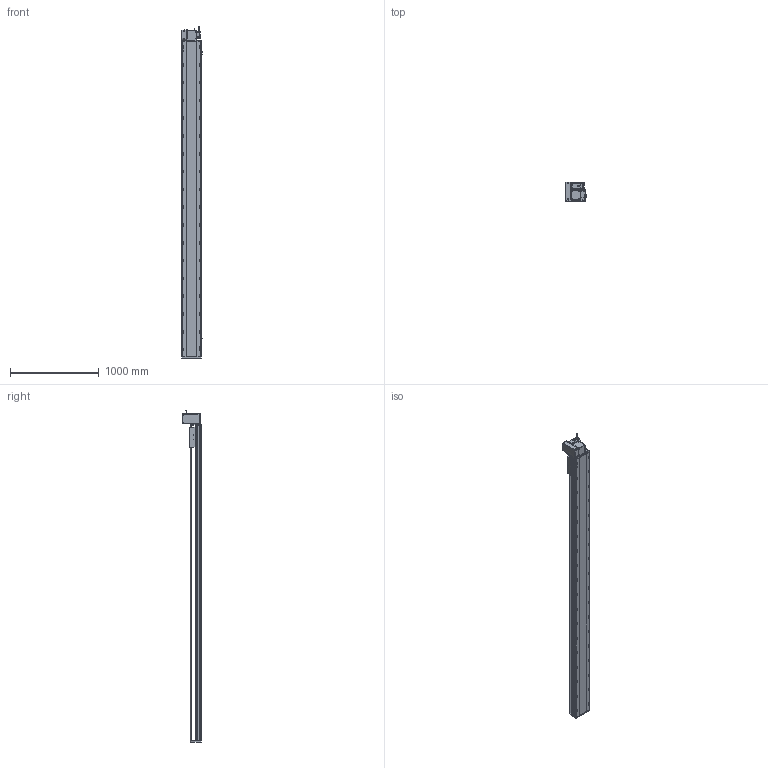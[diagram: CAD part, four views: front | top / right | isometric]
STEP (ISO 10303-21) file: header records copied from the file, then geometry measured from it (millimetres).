
FILE_DESCRIPTION (( 'STEP AP214' ), '1' );
FILE_NAME ('RTB22S-XX-3200-LW-M75-C4.STEP', '2025-12-12T07:06:50', ( '' ), ( '' ), 'SwSTEP 2.0', 'SolidWorks 2018', '' );
FILE_SCHEMA (( 'AUTOMOTIVE_DESIGN' ));
Length unit declared in the file: millimetre
Products named in the file (14): RTB22S-GY-001耜裔^RTB22S-XX-XX-LW-M75-C4; OMRON EE-SX672 传感器^RTB22S-XX-XX-LW-M75-C4; RTH22-GY-013外置感应片^RTB22S-XX-XX-LW-M75-C4; RTB22S-L-004賑釱^RTB22S-XX-XX-LW-M75-C4; RTB22S-GY-014--々湍釱^RTB22S-LW-々湍釱蚾饜_RTB22S-XX-XX-LW-M75-C4; RTB22S-GY-018P^RTB22S-LW-々湍釱蚾饜_RTB22S-XX-XX-LW-M75-C4; RTB22S-GY-005P^RTB22S-LW-々湍釱蚾饜_RTB22S-XX-XX-LW-M75-C4; RTB22S-GY-008-M75--萇儂啣^RTB22S-LW-々湍釱蚾饜_RTB22S-XX-XX-LW-M75-C4; RTB22S-GY-017P^RTB22S-LW-々湍釱蚾饜_RTB22S-XX-XX-LW-M75-C4; RTB22S-GY-007奻裔^RTB22S-XX-XX-LW-M75-C4; 750W萇儂^RTB22S-XX-XX-LW-M75-C4; RTB22S-L-011菁釱^RTB22S-XX-XX-LW-M75-C4; RTB22S-XX-3200-LW-M75-C4; RTB22S-LW-々湍釱蚾饜^RTB22S-XX-XX-LW-M75-C4
Assembly tree (16 placements, depth 3):
  RTB22S-XX-3200-LW-M75-C4
    RTB22S-L-011菁釱^RTB22S-XX-XX-LW-M75-C4
    RTB22S-GY-001耜裔^RTB22S-XX-XX-LW-M75-C4
    750W萇儂^RTB22S-XX-XX-LW-M75-C4
    RTB22S-GY-007奻裔^RTB22S-XX-XX-LW-M75-C4
    RTB22S-L-004賑釱^RTB22S-XX-XX-LW-M75-C4
    RTH22-GY-013外置感应片^RTB22S-XX-XX-LW-M75-C4
    OMRON EE-SX672 传感器^RTB22S-XX-XX-LW-M75-C4  x3
    RTB22S-LW-々湍釱蚾饜^RTB22S-XX-XX-LW-M75-C4
      RTB22S-GY-014--々湍釱^RTB22S-LW-々湍釱蚾饜_RTB22S-XX-XX-LW-M75-C4
      RTB22S-GY-017P^RTB22S-LW-々湍釱蚾饜_RTB22S-XX-XX-LW-M75-C4  x2
      RTB22S-GY-005P^RTB22S-LW-々湍釱蚾饜_RTB22S-XX-XX-LW-M75-C4
      RTB22S-GY-008-M75--萇儂啣^RTB22S-LW-々湍釱蚾饜_RTB22S-XX-XX-LW-M75-C4
      RTB22S-GY-018P^RTB22S-LW-々湍釱蚾饜_RTB22S-XX-XX-LW-M75-C4
Bounding box: 238.5 x 215.5 x 3732.2 mm (x, y, z)
Volume: 46922721.9 mm3; surface area: 4778222.2 mm2
Topology: 15 solids, 15 shells, 2163 faces, 5886 edges, 3752 vertices
Faces by surface type: plane 935, cylinder 742, bspline 296, cone 178, sphere 8, torus 4
Entity records: 59348 total; most frequent: CARTESIAN_POINT 16652, ORIENTED_EDGE 8480, DIRECTION 8334, EDGE_CURVE 4240, AXIS2_PLACEMENT_3D 3006, VERTEX_POINT 2756, LINE 2322, VECTOR 2322
